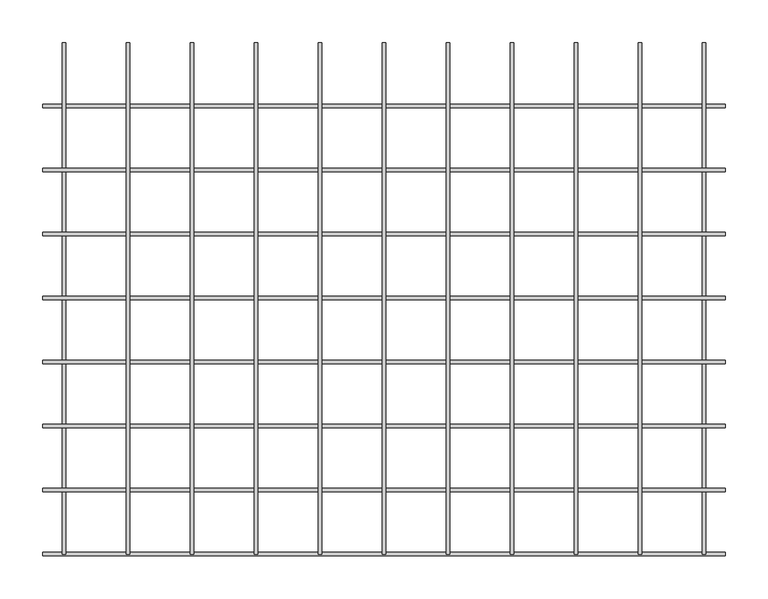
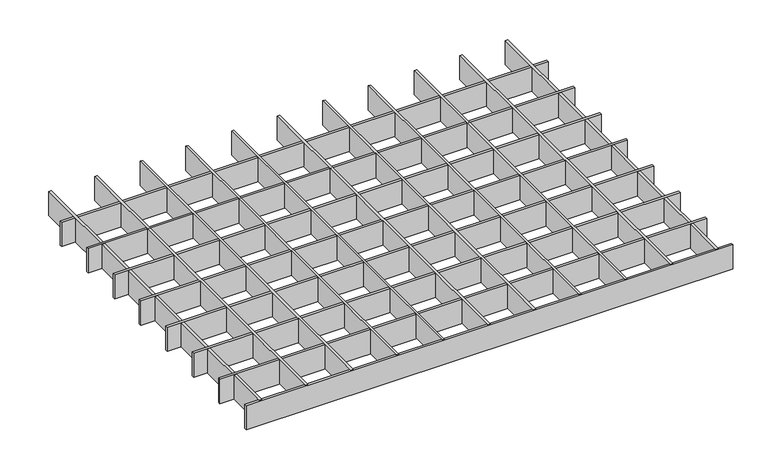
"""IFC4 building model written with IfcOpenShell, lengths in millimetres: proxy geometry, durlum_GEO_panel : durlum_GEO_4_length_cut."""

from ifc_helpers import new_model, si_unit, origin, origin_with_axes, place, context, project, spatial, polyline, outline, extrude, source, transform, mapped, element, save


def generic_models_45de698d(model_context):
    return source(origin(), model_context, "Body", "SweptSolid", [
        extrude(outline(polyline([(298.0, 299.5), (302.0, 299.5), (302.0, -299.5), (298.0, -299.5), (298.0, 299.5)])), origin_with_axes(), (0.0, 0.0, 1.0), 42.0),
        extrude(outline(polyline([(223.0, 299.5), (227.0, 299.5), (227.0, -299.5), (223.0, -299.5), (223.0, 299.5)])), origin_with_axes(), (0.0, 0.0, 1.0), 42.0),
        extrude(outline(polyline([(148.0, 299.5), (152.0, 299.5), (152.0, -299.5), (148.0, -299.5), (148.0, 299.5)])), origin_with_axes(), (0.0, 0.0, 1.0), 42.0),
        extrude(outline(polyline([(73.0, 299.5), (77.0, 299.5), (77.0, -299.5), (73.0, -299.5), (73.0, 299.5)])), origin_with_axes(), (0.0, 0.0, 1.0), 42.0),
        extrude(outline(polyline([(-2.0, 299.5), (2.0, 299.5), (2.0, -299.5), (-2.0, -299.5), (-2.0, 299.5)])), origin_with_axes(), (0.0, 0.0, 1.0), 42.0),
        extrude(outline(polyline([(-77.0, 299.5), (-73.0, 299.5), (-73.0, -299.5), (-77.0, -299.5), (-77.0, 299.5)])), origin_with_axes(), (0.0, 0.0, 1.0), 42.0),
        extrude(outline(polyline([(-152.0, 299.5), (-148.0, 299.5), (-148.0, -299.5), (-152.0, -299.5), (-152.0, 299.5)])), origin_with_axes(), (0.0, 0.0, 1.0), 42.0),
        extrude(outline(polyline([(-227.0, 299.5), (-223.0, 299.5), (-223.0, -299.5), (-227.0, -299.5), (-227.0, 299.5)])), origin_with_axes(), (0.0, 0.0, 1.0), 42.0),
        extrude(outline(polyline([(-302.0, 299.5), (-298.0, 299.5), (-298.0, -299.5), (-302.0, -299.5), (-302.0, 299.5)])), origin_with_axes(), (0.0, 0.0, 1.0), 42.0),
        extrude(outline(polyline([(399.75, -222.5), (399.75, -226.5), (-399.75, -226.5), (-399.75, -222.5), (399.75, -222.5)])), origin_with_axes(), (0.0, 0.0, 1.0), 42.0),
        extrude(outline(polyline([(399.75, -147.5), (399.75, -151.5), (-399.75, -151.5), (-399.75, -147.5), (399.75, -147.5)])), origin_with_axes(), (0.0, 0.0, 1.0), 42.0),
        extrude(outline(polyline([(399.75, -72.5), (399.75, -76.5), (-399.75, -76.5), (-399.75, -72.5), (399.75, -72.5)])), origin_with_axes(), (0.0, 0.0, 1.0), 42.0),
        extrude(outline(polyline([(399.75, 2.5), (399.75, -1.5), (-399.75, -1.5), (-399.75, 2.5), (399.75, 2.5)])), origin_with_axes(), (0.0, 0.0, 1.0), 42.0),
        extrude(outline(polyline([(399.75, 77.5), (399.75, 73.5), (-399.75, 73.5), (-399.75, 77.5), (399.75, 77.5)])), origin_with_axes(), (0.0, 0.0, 1.0), 42.0),
        extrude(outline(polyline([(399.75, 152.5), (399.75, 148.5), (-399.75, 148.5), (-399.75, 152.5), (399.75, 152.5)])), origin_with_axes(), (0.0, 0.0, 1.0), 42.0),
        extrude(outline(polyline([(373.0, 299.5), (377.0, 299.5), (377.0, -299.5), (373.0, -299.5), (373.0, 299.5)])), origin_with_axes(), (0.0, 0.0, 1.0), 42.0),
        extrude(outline(polyline([(-377.0, 299.5), (-373.0, 299.5), (-373.0, -299.5), (-377.0, -299.5), (-377.0, 299.5)])), origin_with_axes(), (0.0, 0.0, 1.0), 42.0),
        extrude(outline(polyline([(399.75, -297.5), (399.75, -301.5), (-399.75, -301.5), (-399.75, -297.5), (399.75, -297.5)])), origin_with_axes(), (0.0, 0.0, 1.0), 42.0),
        extrude(outline(polyline([(399.75, 227.5), (399.75, 223.5), (-399.75, 223.5), (-399.75, 227.5), (399.75, 227.5)])), origin_with_axes(), (0.0, 0.0, 1.0), 42.0),
    ])


if __name__ == "__main__":
    model = new_model("IFC4")
    model_context = context("Model", 3, world=origin())
    ifc_project = project(units=[si_unit("LENGTHUNIT", "METRE", prefix="MILLI")], contexts=[model_context])
    site = spatial("IfcSite", under=ifc_project)
    building = spatial("IfcBuilding", under=site)
    placement = place(None, origin())
    generic_models_shape = generic_models_45de698d(model_context)
    element("IfcBuildingElementProxy", 1, Name="durlum_GEO_panel : durlum_GEO_4_length_cut", ObjectType="durlum_GEO_panel : durlum_GEO_4_length_cut", at=placement, inside=building, context=model_context, shape_type="MappedRepresentation", body=[
        mapped(generic_models_shape, transform((0.0, 0.0, 0.0), x_axis=(1.0, 0.0, 0.0), y_axis=(0.0, 1.0, 0.0), z_axis=(0.0, 0.0, 1.0))),
    ])
    save(model, "model.ifc")
